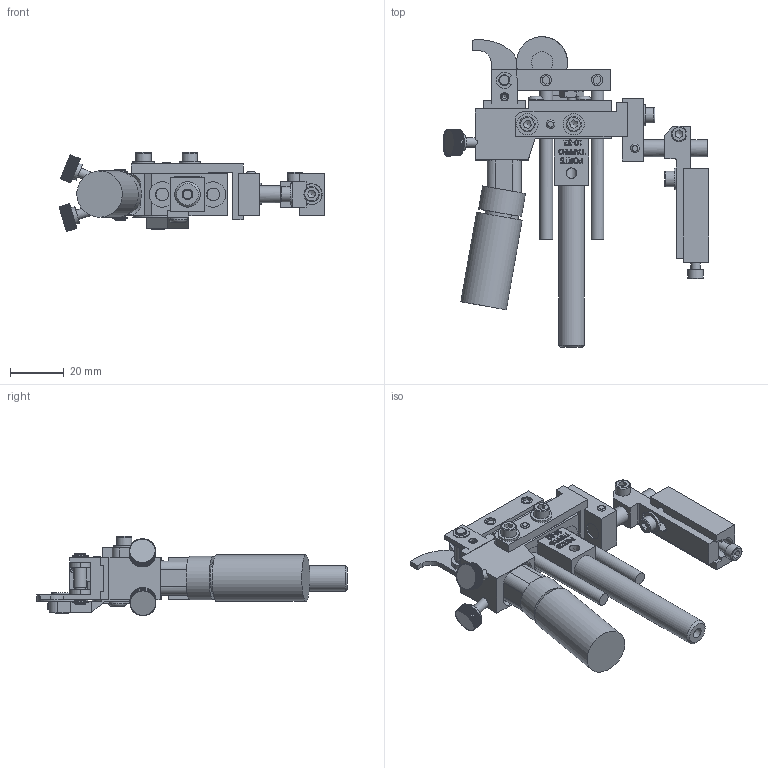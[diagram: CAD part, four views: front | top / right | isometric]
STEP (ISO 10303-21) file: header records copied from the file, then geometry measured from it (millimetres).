
FILE_DESCRIPTION((''),'2;1');
FILE_NAME('C:\Documents and Settings\Ron\My Documents\Inventor\Sprinter Drawing\Machines in Inventor\Model 22\Dot\1-fourth\Std\Brkt\Ret\Model 22 STD 1-4 dot ret w brkt.stp','2009-01-14T08:18:28',('Ron'),(''),'Autodesk Inventor 2008','Autodesk Inventor 2008','');
FILE_SCHEMA(('AUTOMOTIVE_DESIGN { 1 0 10303 214 1 1 1 1 }'));
Length unit declared in the file: inch
Products named in the file (1): Model 22 STD 1-4 dot ret w brkt
Bounding box: 99.17 x 115.84 x 29.55 mm (x, y, z)
Volume: 56597.2 mm3; surface area: 33316.8 mm2
Topology: 34 solids, 34 shells, 4748 faces, 13171 edges, 8741 vertices
Faces by surface type: plane 2898, bspline 1290, cylinder 484, cone 62, torus 14
Full cylindrical faces by diameter (mm): 2.845 x3, 2.946 x2, 3.175 x5, 3.505 x7, 3.556 x2, 3.658 x1, 3.876 x1, 3.962 x9, 4.064 x1, 4.166 x3, 4.648 x2, 4.699 x1, 4.75 x1, 4.763 x2, 4.788 x1, 5.41 x2, 5.556 x1, 5.74 x6, 6.096 x1, 6.325 x2, 6.35 x3, 6.477 x1, 6.655 x1, 7.925 x4, 7.938 x1, 8.128 x1, 9.462 x1, 9.525 x1, 10.922 x1, 11.938 x1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
Entity records: 165931 total; most frequent: CARTESIAN_POINT 49153, ORIENTED_EDGE 25766, DIRECTION 18426, EDGE_CURVE 12883, VECTOR 9076, LINE 9076, VERTEX_POINT 8633, EDGE_LOOP 5270
